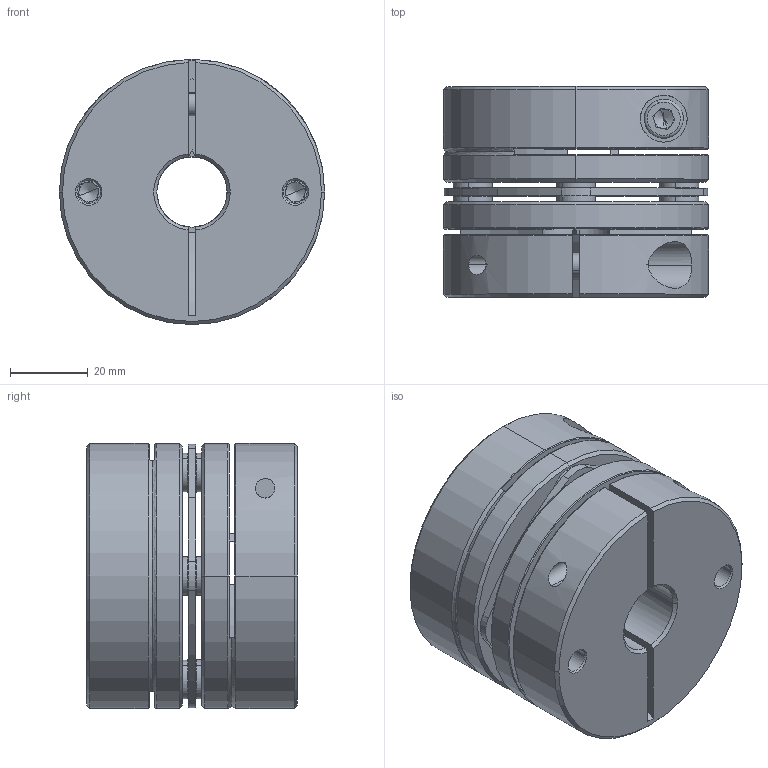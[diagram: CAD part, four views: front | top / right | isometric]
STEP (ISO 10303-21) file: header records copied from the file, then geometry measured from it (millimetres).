
FILE_DESCRIPTION (( 'STEP AP203' ), '1' );
FILE_NAME ('LD1-D68-18-18.STEP', '2021-10-26T07:51:15', ( '' ), ( '' ), 'SwSTEP 2.0', 'SolidWorks 2018', '' );
FILE_SCHEMA (( 'CONFIG_CONTROL_DESIGN' ));
Length unit declared in the file: millimetre
Products named in the file (2): 錨璃101^LD1-D68; LD1-D68-18-18
Assembly tree (1 placements, depth 2):
  LD1-D68-18-18
    錨璃101^LD1-D68
Bounding box: 68 x 54 x 68 mm (x, y, z)
Volume: 153712.7 mm3; surface area: 47112.8 mm2
Topology: 1 solids, 15 shells, 449 faces, 1071 edges, 658 vertices
Faces by surface type: cylinder 165, plane 140, cone 122, torus 22
Entity records: 13597 total; most frequent: CARTESIAN_POINT 2632, DIRECTION 2461, ORIENTED_EDGE 2110, EDGE_CURVE 1055, AXIS2_PLACEMENT_3D 999, VERTEX_POINT 658, CIRCLE 546, EDGE_LOOP 529
